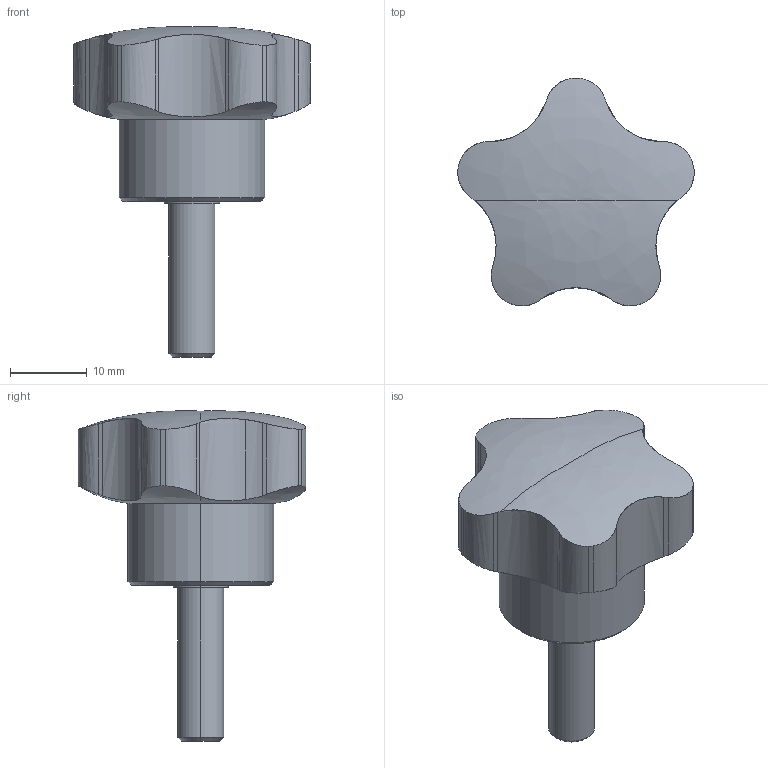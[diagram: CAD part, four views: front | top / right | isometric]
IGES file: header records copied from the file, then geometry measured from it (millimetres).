
Start section: SolidWorks IGES file using analytic representation for surfaces
Global section: file name: Y:\5.更新分\2023年対応\04xx_ALL\B\BTK30X20-SUS\btk30x20-sus.IGS; native system: SolidWorks 2021; preprocessor: SolidWorks 2021; author: ImaoCorp; date: 230615.154555; units: millimetre
Bounding box: 30.84 x 29.71 x 43.09 mm (x, y, z)
Surface area: 3117 mm2 (no closed solid volume)
Topology: 0 solids, 0 shells, 50 faces, 691 edges, 689 vertices
Faces by surface type: revolution 33, bspline 17
